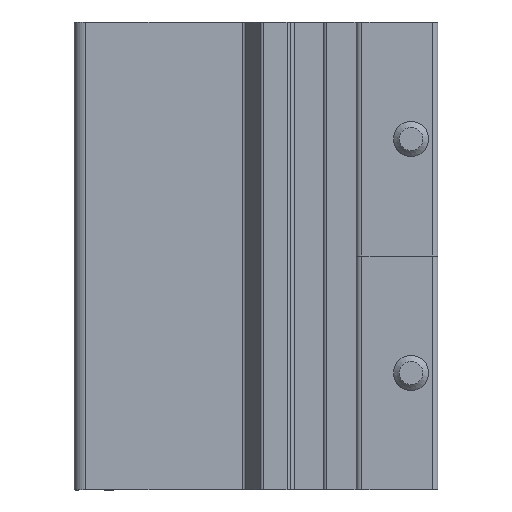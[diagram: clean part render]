
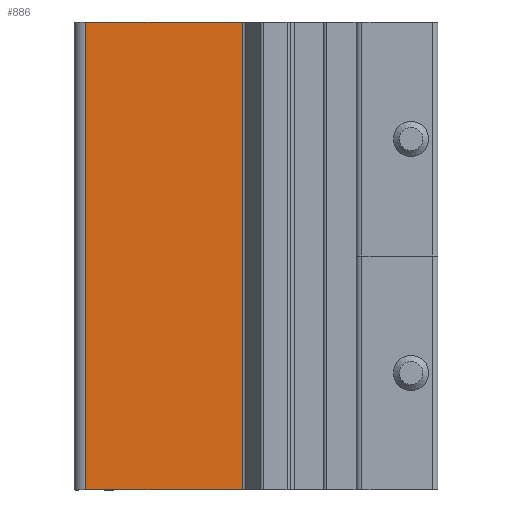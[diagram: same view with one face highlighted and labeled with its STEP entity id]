
A CAD part, left-side view. The second image highlights one B-rep face of the part: STEP entity #886.
In plain terms, the highlighted planar face has unit normal (-1, 0, 0) as drawn and (0, -1, 0) by its records, which use the part's own axes.
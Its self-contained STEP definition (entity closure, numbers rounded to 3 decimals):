
#886=ADVANCED_FACE('',(#1810),#1811,.F.);
#1810=FACE_OUTER_BOUND('',#2967,.T.);
#1811=PLANE('',#2968);
#2967=EDGE_LOOP('',(#4475,#4476,#4477,#4478));
#2968=AXIS2_PLACEMENT_3D('',#4479,#4480,#4481);
#4475=ORIENTED_EDGE('',*,*,#7386,.T.);
#4476=ORIENTED_EDGE('',*,*,#7387,.F.);
#4477=ORIENTED_EDGE('',*,*,#7243,.F.);
#4478=ORIENTED_EDGE('',*,*,#7384,.T.);
#4479=CARTESIAN_POINT('',(12.117,6.3,40.0));
#4480=DIRECTION('',(0.,1.0,0.0));
#4481=DIRECTION('',(-1.0,0.,0.0));
#7243=EDGE_CURVE('',#8566,#8568,#8569,.T.);
#7384=EDGE_CURVE('',#8566,#8810,#8812,.T.);
#7386=EDGE_CURVE('',#8810,#8814,#8815,.T.);
#7387=EDGE_CURVE('',#8568,#8814,#8816,.T.);
#8566=VERTEX_POINT('',#10502);
#8568=VERTEX_POINT('',#10504);
#8569=LINE('',#10505,#10506);
#8810=VERTEX_POINT('',#10817);
#8812=LINE('',#10819,#10820);
#8814=VERTEX_POINT('',#10822);
#8815=LINE('',#10823,#10824);
#8816=LINE('',#10825,#10826);
#10502=CARTESIAN_POINT('',(12.117,6.3,40.0));
#10504=CARTESIAN_POINT('',(25.5,6.3,40.0));
#10505=CARTESIAN_POINT('',(12.117,6.3,40.0));
#10506=VECTOR('',#13025,1.0);
#10817=CARTESIAN_POINT('',(12.117,6.3,0.0));
#10819=CARTESIAN_POINT('',(12.117,6.3,40.0));
#10820=VECTOR('',#13249,1.0);
#10822=CARTESIAN_POINT('',(25.5,6.3,0.0));
#10823=CARTESIAN_POINT('',(12.117,6.3,0.0));
#10824=VECTOR('',#13250,1.0);
#10825=CARTESIAN_POINT('',(25.5,6.3,40.0));
#10826=VECTOR('',#13251,1.0);
#13025=DIRECTION('',(1.0,0.,0.0));
#13249=DIRECTION('',(0.0,0.0,-1.0));
#13250=DIRECTION('',(1.0,0.,0.0));
#13251=DIRECTION('',(0.0,0.0,-1.0));
